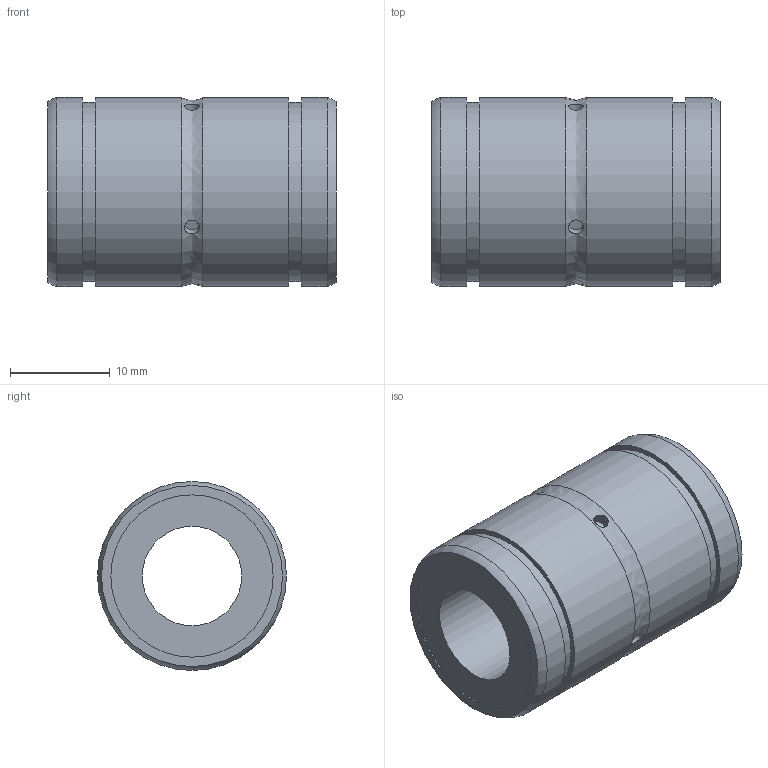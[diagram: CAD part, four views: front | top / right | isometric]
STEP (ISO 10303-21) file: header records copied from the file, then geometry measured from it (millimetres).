
FILE_DESCRIPTION((''),'2;1');
FILE_NAME('D:\製品 (図面)\カタログ用3D\リニアベアリング関連\STEP形式\L-OH\L10-OH.stp','2010-06-04T09:29:15',('Tsuchiya'),(''),'Autodesk Inventor 10','Autodesk Inventor 10','');
FILE_SCHEMA(('AUTOMOTIVE_DESIGN { 1 0 10303 214 1 1 1 1 }'));
Length unit declared in the file: millimetre
Products named in the file (1): L10-OH
Bounding box: 29 x 19 x 19 mm (x, y, z)
Volume: 5791 mm3; surface area: 3150.1 mm2
Topology: 1 solids, 1 shells, 28 faces, 48 edges, 32 vertices
Faces by surface type: cylinder 13, plane 8, bspline 5, torus 2
Full cylindrical faces by diameter (mm): 10 x1, 16.3 x2, 18 x2, 19 x4
Entity records: 1033 total; most frequent: CARTESIAN_POINT 571, DIRECTION 88, ORIENTED_EDGE 56, EDGE_LOOP 56, AXIS2_PLACEMENT_3D 44, VERTEX_POINT 28, EDGE_CURVE 28, FACE_OUTER_BOUND 28
